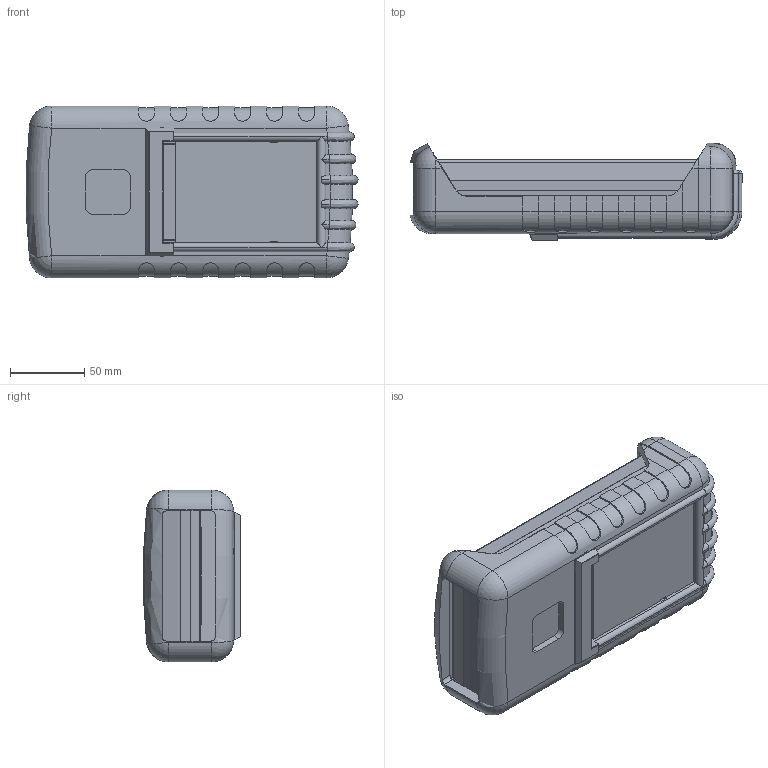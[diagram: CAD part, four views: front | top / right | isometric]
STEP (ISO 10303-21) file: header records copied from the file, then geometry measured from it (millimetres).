
FILE_DESCRIPTION (( 'STEP AP214' ), '1' );
FILE_NAME ('100-42-NO-E-R.STEP', '2020-11-20T22:15:21', ( 'Rudy' ), ( '' ), 'SwSTEP 2.0', 'SolidWorks 2016', '' );
FILE_SCHEMA (( 'AUTOMOTIVE_DESIGN' ));
Length unit declared in the file: inch
Products named in the file (6): 100-42-NO-E-R; 100 RBE; 100-NO- PCB; 100-04-recessed Top; 100-06 EXPANDER; 100-02 BOT-NO BAT
Assembly tree (5 placements, depth 2):
  100-42-NO-E-R
    100-02 BOT-NO BAT
    100-06 EXPANDER
    100-04-recessed Top
    100-NO- PCB
    100 RBE
Bounding box: 223.76 x 65.38 x 115.87 mm (x, y, z)
Volume: 408894.1 mm3; surface area: 267608.7 mm2
Topology: 5 solids, 5 shells, 1034 faces, 2725 edges, 1702 vertices
Faces by surface type: plane 475, cylinder 404, bspline 67, cone 50, torus 26, sphere 12
Entity records: 35304 total; most frequent: CARTESIAN_POINT 10695, ORIENTED_EDGE 5370, DIRECTION 4757, EDGE_CURVE 2685, VERTEX_POINT 1694, AXIS2_PLACEMENT_3D 1603, LINE 1551, VECTOR 1551
